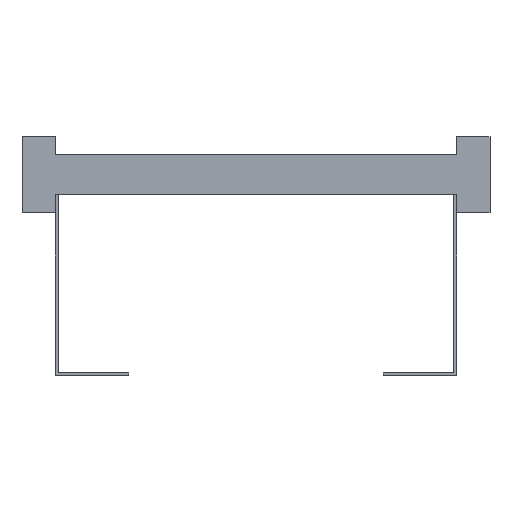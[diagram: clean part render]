
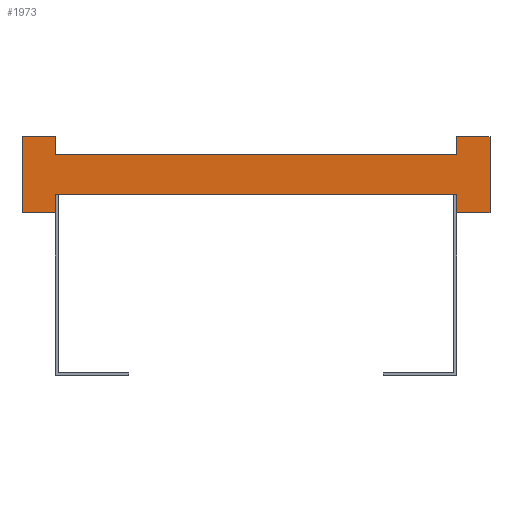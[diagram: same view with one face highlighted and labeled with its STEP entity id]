
A CAD part, front view. The second image highlights one B-rep face of the part: STEP entity #1973.
In plain terms, the highlighted planar face has unit normal (0, -1, 0).
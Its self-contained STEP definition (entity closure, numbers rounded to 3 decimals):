
#661=DIRECTION('',(0.,0.,1.));
#662=VECTOR('',#661,13.5);
#663=CARTESIAN_POINT('',(150.,0.,-28.5));
#664=LINE('',#663,#662);
#665=DIRECTION('',(0.,0.,-1.));
#666=VECTOR('',#665,13.5);
#667=CARTESIAN_POINT('',(-150.,0.,-15.));
#668=LINE('',#667,#666);
#669=DIRECTION('',(-1.,0.,0.));
#670=VECTOR('',#669,25.);
#671=CARTESIAN_POINT('',(-150.,0.,-28.5));
#672=LINE('',#671,#670);
#673=DIRECTION('',(0.,0.,1.));
#674=VECTOR('',#673,57.);
#675=CARTESIAN_POINT('',(-175.,0.,-28.5));
#676=LINE('',#675,#674);
#677=DIRECTION('',(1.,0.,0.));
#678=VECTOR('',#677,25.);
#679=CARTESIAN_POINT('',(-175.,0.,28.5));
#680=LINE('',#679,#678);
#681=DIRECTION('',(0.,0.,-1.));
#682=VECTOR('',#681,13.5);
#683=CARTESIAN_POINT('',(-150.,0.,28.5));
#684=LINE('',#683,#682);
#685=DIRECTION('',(0.,0.,1.));
#686=VECTOR('',#685,13.5);
#687=CARTESIAN_POINT('',(150.,0.,15.));
#688=LINE('',#687,#686);
#689=DIRECTION('',(1.,0.,0.));
#690=VECTOR('',#689,25.);
#691=CARTESIAN_POINT('',(150.,0.,28.5));
#692=LINE('',#691,#690);
#693=DIRECTION('',(0.,0.,-1.));
#694=VECTOR('',#693,57.);
#695=CARTESIAN_POINT('',(175.,0.,28.5));
#696=LINE('',#695,#694);
#697=DIRECTION('',(-1.,0.,0.));
#698=VECTOR('',#697,25.);
#699=CARTESIAN_POINT('',(175.,0.,-28.5));
#700=LINE('',#699,#698);
#701=DIRECTION('',(1.,0.,0.));
#702=VECTOR('',#701,300.);
#703=CARTESIAN_POINT('',(-150.,0.,-15.));
#704=LINE('',#703,#702);
#713=DIRECTION('',(1.,0.,0.));
#714=VECTOR('',#713,300.);
#715=CARTESIAN_POINT('',(-150.,0.,15.));
#716=LINE('',#715,#714);
#929=CARTESIAN_POINT('',(-175.,0.,28.5));
#930=CARTESIAN_POINT('',(-150.,0.,28.5));
#931=VERTEX_POINT('',#929);
#932=VERTEX_POINT('',#930);
#933=CARTESIAN_POINT('',(-150.,0.,-28.5));
#934=CARTESIAN_POINT('',(-175.,0.,-28.5));
#935=VERTEX_POINT('',#933);
#936=VERTEX_POINT('',#934);
#937=CARTESIAN_POINT('',(175.,0.,28.5));
#938=CARTESIAN_POINT('',(175.,0.,-28.5));
#939=VERTEX_POINT('',#937);
#940=VERTEX_POINT('',#938);
#941=CARTESIAN_POINT('',(150.,0.,-28.5));
#942=VERTEX_POINT('',#941);
#943=CARTESIAN_POINT('',(150.,0.,28.5));
#944=VERTEX_POINT('',#943);
#945=CARTESIAN_POINT('',(-150.,0.,-15.));
#947=VERTEX_POINT('',#945);
#949=CARTESIAN_POINT('',(-150.,0.,15.));
#951=VERTEX_POINT('',#949);
#953=CARTESIAN_POINT('',(150.,0.,-15.));
#955=VERTEX_POINT('',#953);
#957=CARTESIAN_POINT('',(150.,0.,15.));
#959=VERTEX_POINT('',#957);
#1948=CARTESIAN_POINT('',(0.,0.,0.));
#1949=DIRECTION('',(0.,1.,0.));
#1950=DIRECTION('',(1.,0.,0.));
#1951=AXIS2_PLACEMENT_3D('',#1948,#1949,#1950);
#1952=PLANE('',#1951);
#1953=ORIENTED_EDGE('',*,*,#1410,.T.);
#1955=ORIENTED_EDGE('',*,*,#1954,.F.);
#1956=ORIENTED_EDGE('',*,*,#1529,.T.);
#1957=ORIENTED_EDGE('',*,*,#1895,.T.);
#1959=ORIENTED_EDGE('',*,*,#1958,.T.);
#1960=ORIENTED_EDGE('',*,*,#1941,.T.);
#1961=ORIENTED_EDGE('',*,*,#1537,.T.);
#1963=ORIENTED_EDGE('',*,*,#1962,.T.);
#1964=ORIENTED_EDGE('',*,*,#1402,.T.);
#1966=ORIENTED_EDGE('',*,*,#1965,.T.);
#1968=ORIENTED_EDGE('',*,*,#1967,.T.);
#1970=ORIENTED_EDGE('',*,*,#1969,.T.);
#1971=EDGE_LOOP('',(#1953,#1955,#1956,#1957,#1959,#1960,#1961,#1963,#1964,#1966,
#1968,#1970));
#1972=FACE_OUTER_BOUND('',#1971,.F.);
#1402=EDGE_CURVE('',#959,#944,#688,.T.);
#1410=EDGE_CURVE('',#942,#955,#664,.T.);
#1529=EDGE_CURVE('',#947,#935,#668,.T.);
#1537=EDGE_CURVE('',#932,#951,#684,.T.);
#1895=EDGE_CURVE('',#935,#936,#672,.T.);
#1941=EDGE_CURVE('',#931,#932,#680,.T.);
#1954=EDGE_CURVE('',#947,#955,#704,.T.);
#1958=EDGE_CURVE('',#936,#931,#676,.T.);
#1962=EDGE_CURVE('',#951,#959,#716,.T.);
#1965=EDGE_CURVE('',#944,#939,#692,.T.);
#1967=EDGE_CURVE('',#939,#940,#696,.T.);
#1969=EDGE_CURVE('',#940,#942,#700,.T.);
#1973=ADVANCED_FACE('',(#1972),#1952,.F.);
